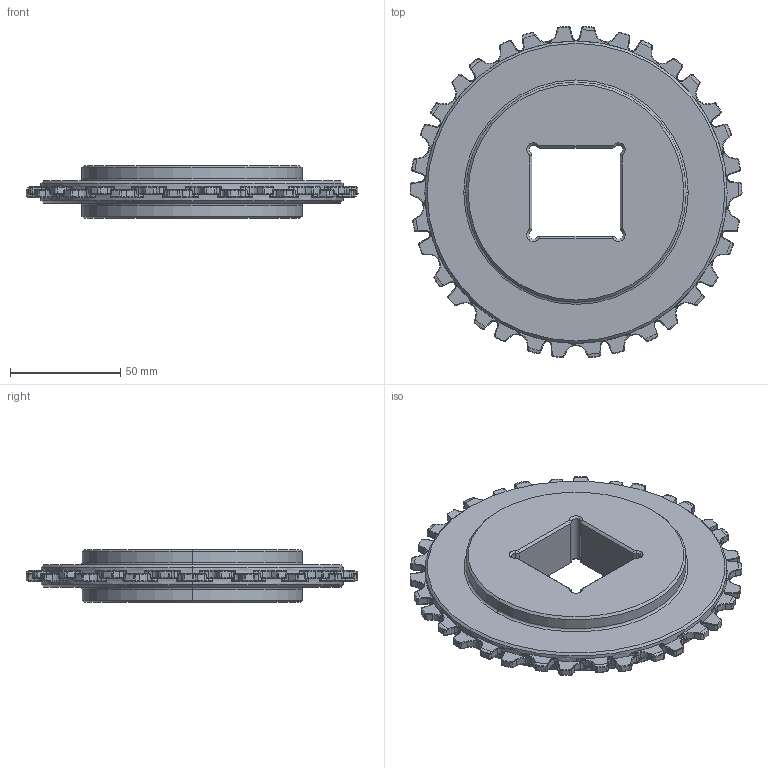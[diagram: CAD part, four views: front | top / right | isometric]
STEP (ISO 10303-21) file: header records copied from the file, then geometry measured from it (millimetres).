
FILE_DESCRIPTION (( 'STEP AP203' ), '1' );
FILE_NAME ('耀郪湍喘謫,HS-700-17T-S40.STEP', '2024-09-25T06:23:14', ( 'PC' ), ( 'Microsoft' ), 'SwSTEP 2.0', 'SolidWorks 2018', '' );
FILE_SCHEMA (( 'CONFIG_CONTROL_DESIGN' ));
Length unit declared in the file: millimetre
Products named in the file (1): 耀郪湍喘謫,HS-700-17T-S40
Bounding box: 150.84 x 150.48 x 24 mm (x, y, z)
Volume: 224196.4 mm3; surface area: 42179.9 mm2
Topology: 1 solids, 1 shells, 1432 faces, 3595 edges, 2167 vertices
Faces by surface type: cylinder 557, torus 415, plane 254, bspline 136, cone 70
Entity records: 46038 total; most frequent: CARTESIAN_POINT 12341, DIRECTION 7269, ORIENTED_EDGE 7190, EDGE_CURVE 3595, AXIS2_PLACEMENT_3D 3035, VERTEX_POINT 2167, CIRCLE 1738, EDGE_LOOP 1436
